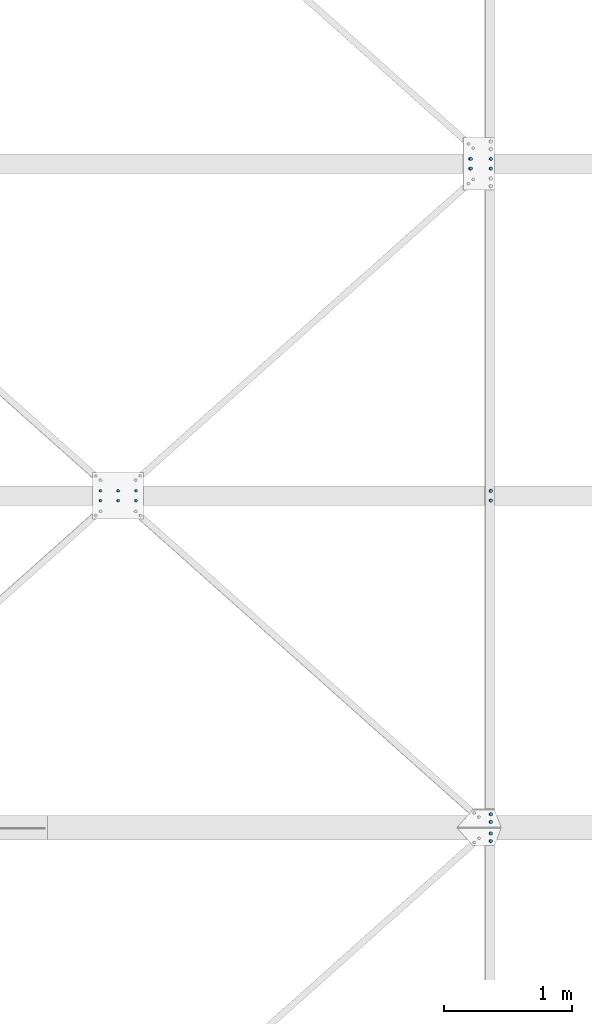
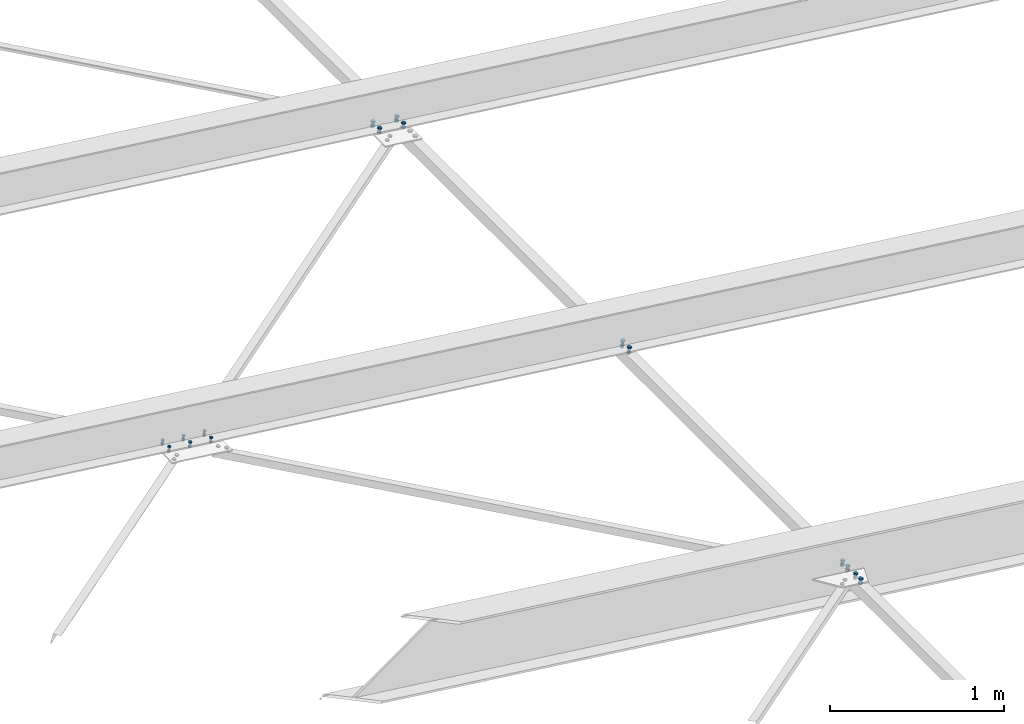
# One storey, part 259 of 3134: 5 mechanical fasteners, 4 elements without a shape of their own.
"""IFC2X3 building model written with IfcOpenShell, lengths in millimetres."""

from ifc_helpers import new_model, si_unit, frame, origin_with_axes, place, context, subcontext, project, spatial, faceted_brep, source, transform, mapped, material, type_object, element, aggregate, save


model = new_model("IFC2X3")

# Units and contexts
model_context = context("Model", 3, precision=1e-05, world=origin_with_axes())
body_context = subcontext(model_context, "Body", "Model", "MODEL_VIEW")
ifc_project = project(units=[si_unit("LENGTHUNIT", "METRE", prefix="MILLI"), si_unit("AREAUNIT", "SQUARE_METRE"), si_unit("VOLUMEUNIT", "CUBIC_METRE"), si_unit("MASSUNIT", "GRAM", prefix="KILO"), si_unit("TIMEUNIT", "SECOND"), si_unit("PLANEANGLEUNIT", "RADIAN"), si_unit("SOLIDANGLEUNIT", "STERADIAN"), si_unit("THERMODYNAMICTEMPERATUREUNIT", "DEGREE_CELSIUS"), si_unit("LUMINOUSINTENSITYUNIT", "LUMEN")], contexts=[model_context])

# Site, building, storey
site_placement = place(None, origin_with_axes())
site = spatial("IfcSite", under=ifc_project, at=site_placement, CompositionType="ELEMENT")
building_placement = place(site_placement, origin_with_axes())
building = spatial("IfcBuilding", under=site, at=building_placement, Name="Undefined", CompositionType="ELEMENT")
storey_placement = place(building_placement, origin_with_axes())
storey = spatial("IfcBuildingStorey", under=building, at=storey_placement, Name="Undefined", CompositionType="ELEMENT", Elevation=0.0)

# Assembly, mechanical fastener
assembly_1_placement = place(storey_placement, origin_with_axes())
assembly_1 = element("IfcElementAssembly", 1, at=assembly_1_placement, inside=storey, Name="300", AssemblyPlace="NOTDEFINED", PredefinedType="RIGID_FRAME")
ifc_material = material(Name="8.8")
mechanical_fastener_type = type_object("IfcMechanicalFastenerType", Name="Bolt assembly")
shared_shape_1 = source(origin_with_axes(), body_context, "Body", "Brep", [
    faceted_brep([(13.856406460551, -19.199990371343, 0.0), (6.92820323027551, -19.199990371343, 12.0), (-6.92820323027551, -19.199990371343, 12.0), (-13.856406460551, -19.199990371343, 1.69692038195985e-15), (-6.92820323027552, -19.199990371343, -12.0), (6.9282032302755, -19.199990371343, -12.0), (6.9282032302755, -9.19999037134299, -12.0), (-6.92820323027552, -9.19999037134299, -12.0), (-13.856406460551, -9.19999037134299, 1.69692038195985e-15), (-6.92820323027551, -9.19999037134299, 12.0), (6.92820323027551, -9.19999037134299, 12.0), (13.856406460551, -9.19999037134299, 0.0), (8.0, -9.19999037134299, 0.0), (6.92820323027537, -9.19999037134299, 4.00000000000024), (3.99999999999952, -9.19999037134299, 6.92820323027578), (-8.29068785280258e-13, -9.19999037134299, 8.0), (-4.00000000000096, -9.19999037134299, 6.92820323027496), (-6.9282032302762, -9.19999037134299, 3.99999999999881), (-8.0, -9.19999037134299, -1.65813757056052e-12), (-6.92820323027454, -9.19999037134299, -4.00000000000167), (-3.99999999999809, -9.19999037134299, -6.92820323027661), (2.47832457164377e-12, -9.19999037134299, -8.0), (4.00000000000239, -9.19999037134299, -6.92820323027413), (6.92820323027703, -9.19999037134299, -3.99999999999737), (6.92820323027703, 25.800009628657, -3.99999999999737), (4.00000000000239, 25.800009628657, -6.92820323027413), (2.47832457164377e-12, 25.800009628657, -8.0), (-3.99999999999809, 25.800009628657, -6.92820323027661), (-6.92820323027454, 25.800009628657, -4.00000000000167), (-8.0, 25.800009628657, -1.65813757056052e-12), (-6.9282032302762, 25.800009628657, 3.99999999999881), (-4.00000000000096, 25.800009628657, 6.92820323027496), (-8.29068785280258e-13, 25.800009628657, 8.0), (3.99999999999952, 25.800009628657, 6.92820323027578), (6.92820323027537, 25.800009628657, 4.00000000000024), (8.0, 25.800009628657, 0.0), (13.856406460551, 8.00000637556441, 0.0), (6.92820323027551, 8.00000637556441, 12.0), (-6.92820323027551, 8.00000637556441, 12.0), (-13.856406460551, 8.00000637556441, 1.69692038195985e-15), (-6.92820323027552, 8.00000637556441, -12.0), (6.9282032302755, 8.00000637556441, -12.0), (6.9282032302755, 21.0000063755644, -12.0), (-6.92820323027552, 21.0000063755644, -12.0), (-13.856406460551, 21.0000063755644, 1.69692038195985e-15), (-6.92820323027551, 21.0000063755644, 12.0), (6.92820323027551, 21.0000063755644, 12.0), (13.856406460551, 21.0000063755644, 0.0)], [[[0, 1, 2, 3, 4, 5]], [[6, 7, 8, 9, 10, 11]], [[0, 11, 10, 1]], [[1, 10, 9, 2]], [[2, 9, 8, 3]], [[3, 8, 7, 4]], [[4, 7, 6, 5]], [[5, 6, 11, 0]], [[12, 13, 14, 15, 16, 17, 18, 19, 20, 21, 22, 23]], [[24, 25, 26, 27, 28, 29, 30, 31, 32, 33, 34, 35]], [[12, 35, 34, 13]], [[13, 34, 33, 14]], [[14, 33, 32, 15]], [[15, 32, 31, 16]], [[16, 31, 30, 17]], [[17, 30, 29, 18]], [[18, 29, 28, 19]], [[19, 28, 27, 20]], [[20, 27, 26, 21]], [[21, 26, 25, 22]], [[22, 25, 24, 23]], [[23, 24, 35, 12]], [[36, 37, 38, 39, 40, 41]], [[42, 43, 44, 45, 46, 47]], [[36, 47, 46, 37]], [[37, 46, 45, 38]], [[38, 45, 44, 39]], [[39, 44, 43, 40]], [[40, 43, 42, 41]], [[41, 42, 47, 36]]]),
    faceted_brep([(9.0, -0.1, 0.0), (7.79422863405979, -0.1, 4.50000000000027), (4.49999999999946, -0.1, 7.79422863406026), (-9.3270238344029e-13, -0.1, 9.0), (-4.50000000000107, -0.1, 7.79422863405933), (-7.79422863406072, -0.1, 4.49999999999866), (-9.0, -0.1, -1.86540476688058e-12), (-7.79422863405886, -0.1, -4.50000000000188), (-4.49999999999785, -0.1, -7.79422863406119), (2.78811514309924e-12, -0.1, -9.0), (4.50000000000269, -0.1, -7.7942286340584), (7.79422863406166, -0.1, -4.49999999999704), (7.79422863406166, 8.00000000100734, -4.49999999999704), (4.50000000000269, 8.00000000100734, -7.7942286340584), (2.78811514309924e-12, 8.00000000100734, -9.0), (-4.49999999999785, 8.00000000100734, -7.79422863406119), (-7.79422863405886, 8.00000000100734, -4.50000000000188), (-9.0, 8.00000000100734, -1.86540476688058e-12), (-7.79422863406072, 8.00000000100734, 4.49999999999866), (-4.50000000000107, 8.00000000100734, 7.79422863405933), (-9.3270238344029e-13, 8.00000000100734, 9.0), (4.49999999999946, 8.00000000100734, 7.79422863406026), (7.79422863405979, 8.00000000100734, 4.50000000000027), (9.0, 8.00000000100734, 0.0), (9.0, -9.09999037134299, 0.0), (7.79422863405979, -9.09999037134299, 4.50000000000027), (4.49999999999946, -9.09999037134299, 7.79422863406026), (-9.3270238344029e-13, -9.09999037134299, 9.0), (-4.50000000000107, -9.09999037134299, 7.79422863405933), (-7.79422863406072, -9.09999037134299, 4.49999999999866), (-9.0, -9.09999037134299, -1.86540476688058e-12), (-7.79422863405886, -9.09999037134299, -4.50000000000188), (-4.49999999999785, -9.09999037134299, -7.79422863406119), (2.78811514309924e-12, -9.09999037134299, -9.0), (4.50000000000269, -9.09999037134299, -7.7942286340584), (7.79422863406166, -9.09999037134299, -4.49999999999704), (7.79422863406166, 0.100000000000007, -4.49999999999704), (4.50000000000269, 0.100000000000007, -7.7942286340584), (2.78811514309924e-12, 0.100000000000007, -9.0), (-4.49999999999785, 0.100000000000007, -7.79422863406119), (-7.79422863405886, 0.100000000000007, -4.50000000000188), (-9.0, 0.100000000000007, -1.86540476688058e-12), (-7.79422863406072, 0.100000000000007, 4.49999999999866), (-4.50000000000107, 0.100000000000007, 7.79422863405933), (-9.3270238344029e-13, 0.100000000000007, 9.0), (4.49999999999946, 0.100000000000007, 7.79422863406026), (7.79422863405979, 0.100000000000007, 4.50000000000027), (9.0, 0.100000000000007, 0.0)], [[[0, 1, 2, 3, 4, 5, 6, 7, 8, 9, 10, 11]], [[12, 13, 14, 15, 16, 17, 18, 19, 20, 21, 22, 23]], [[0, 23, 22, 1]], [[1, 22, 21, 2]], [[2, 21, 20, 3]], [[3, 20, 19, 4]], [[4, 19, 18, 5]], [[5, 18, 17, 6]], [[6, 17, 16, 7]], [[7, 16, 15, 8]], [[8, 15, 14, 9]], [[9, 14, 13, 10]], [[10, 13, 12, 11]], [[11, 12, 23, 0]], [[24, 25, 26, 27, 28, 29, 30, 31, 32, 33, 34, 35]], [[36, 37, 38, 39, 40, 41, 42, 43, 44, 45, 46, 47]], [[24, 47, 46, 25]], [[25, 46, 45, 26]], [[26, 45, 44, 27]], [[27, 44, 43, 28]], [[28, 43, 42, 29]], [[29, 42, 41, 30]], [[30, 41, 40, 31]], [[31, 40, 39, 32]], [[32, 39, 38, 33]], [[33, 38, 37, 34]], [[34, 37, 36, 35]], [[35, 36, 47, 24]]]),
])
mechanical_fastener_1_placement = place(assembly_1_placement, frame((49958.5751064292, 45412.0, 4816.43281405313), z_axis=(-0.992623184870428, 0.0, 0.121240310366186), x_axis=(0.0, 1.0, 0.0)))
mechanical_fastener_1 = element("IfcMechanicalFastener", 2, at=mechanical_fastener_1_placement, type_object=mechanical_fastener_type, material=ifc_material, Name="Bolt assembly", NominalDiameter=16.0, NominalLength=35.0, context=body_context, shape_type="MappedRepresentation", body=[
    mapped(shared_shape_1, transform((0.0, -5.32963895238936e-10, -79.9999999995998))),
    mapped(shared_shape_1, transform((76.0, -5.32963895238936e-10, -79.9999999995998))),
    mapped(shared_shape_1, transform((0.0, 5.3114490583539e-10, 79.9999999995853))),
    mapped(shared_shape_1, transform((76.0, 5.3114490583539e-10, 79.9999999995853))),
])
aggregate(assembly_1, [mechanical_fastener_1])

# Assembly, mechanical fasteners
assembly_2_placement = place(storey_placement, origin_with_axes())
assembly_2 = element("IfcElementAssembly", 3, at=assembly_2_placement, inside=storey, Name="IPE450", AssemblyPlace="NOTDEFINED", PredefinedType="RIGID_FRAME")
shared_shape_2 = source(origin_with_axes(), body_context, "Body", "Brep", [
    faceted_brep([(13.856406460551, -10.0, 0.0), (6.92820323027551, -10.0, 12.0), (-6.92820323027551, -10.0, 12.0), (-13.856406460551, -10.0, 1.69692038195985e-15), (-6.92820323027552, -10.0, -12.0), (6.9282032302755, -10.0, -12.0), (6.9282032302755, 0.0, -12.0), (-6.92820323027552, 0.0, -12.0), (-13.856406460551, 0.0, 1.69692038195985e-15), (-6.92820323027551, 0.0, 12.0), (6.92820323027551, 0.0, 12.0), (13.856406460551, 0.0, 0.0), (8.0, 0.0, 0.0), (6.92820323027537, 0.0, 4.00000000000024), (3.99999999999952, 0.0, 6.92820323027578), (-8.29068785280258e-13, 0.0, 8.0), (-4.00000000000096, 0.0, 6.92820323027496), (-6.9282032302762, 0.0, 3.99999999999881), (-8.0, 0.0, -1.65813757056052e-12), (-6.92820323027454, 0.0, -4.00000000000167), (-3.99999999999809, 0.0, -6.92820323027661), (2.47832457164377e-12, 0.0, -8.0), (4.00000000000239, 0.0, -6.92820323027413), (6.92820323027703, 0.0, -3.99999999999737), (6.92820323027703, 35.0000000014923, -3.99999999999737), (4.00000000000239, 35.0000000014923, -6.92820323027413), (2.47832457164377e-12, 35.0000000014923, -8.0), (-3.99999999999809, 35.0000000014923, -6.92820323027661), (-6.92820323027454, 35.0000000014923, -4.00000000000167), (-8.0, 35.0000000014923, -1.65813757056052e-12), (-6.9282032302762, 35.0000000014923, 3.99999999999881), (-4.00000000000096, 35.0000000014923, 6.92820323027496), (-8.29068785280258e-13, 35.0000000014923, 8.0), (3.99999999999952, 35.0000000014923, 6.92820323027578), (6.92820323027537, 35.0000000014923, 4.00000000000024), (8.0, 35.0000000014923, 0.0), (13.856406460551, 14.9990000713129, 0.0), (6.92820323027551, 14.9990000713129, 12.0), (-6.92820323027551, 14.9990000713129, 12.0), (-13.856406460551, 14.9990000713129, 1.69692038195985e-15), (-6.92820323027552, 14.9990000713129, -12.0), (6.9282032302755, 14.9990000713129, -12.0), (6.9282032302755, 27.9990000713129, -12.0), (-6.92820323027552, 27.9990000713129, -12.0), (-13.856406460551, 27.9990000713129, 1.69692038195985e-15), (-6.92820323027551, 27.9990000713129, 12.0), (6.92820323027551, 27.9990000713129, 12.0), (13.856406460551, 27.9990000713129, 0.0)], [[[0, 1, 2, 3, 4, 5]], [[6, 7, 8, 9, 10, 11]], [[0, 11, 10, 1]], [[1, 10, 9, 2]], [[2, 9, 8, 3]], [[3, 8, 7, 4]], [[4, 7, 6, 5]], [[5, 6, 11, 0]], [[12, 13, 14, 15, 16, 17, 18, 19, 20, 21, 22, 23]], [[24, 25, 26, 27, 28, 29, 30, 31, 32, 33, 34, 35]], [[12, 35, 34, 13]], [[13, 34, 33, 14]], [[14, 33, 32, 15]], [[15, 32, 31, 16]], [[16, 31, 30, 17]], [[17, 30, 29, 18]], [[18, 29, 28, 19]], [[19, 28, 27, 20]], [[20, 27, 26, 21]], [[21, 26, 25, 22]], [[22, 25, 24, 23]], [[23, 24, 35, 12]], [[36, 37, 38, 39, 40, 41]], [[42, 43, 44, 45, 46, 47]], [[36, 47, 46, 37]], [[37, 46, 45, 38]], [[38, 45, 44, 39]], [[39, 44, 43, 40]], [[40, 43, 42, 41]], [[41, 42, 47, 36]]]),
    faceted_brep([(9.0, 7.89900007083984, 0.0), (7.79422863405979, 7.89900007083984, 4.50000000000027), (4.49999999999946, 7.89900007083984, 7.79422863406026), (-9.3270238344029e-13, 7.89900007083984, 9.0), (-4.50000000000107, 7.89900007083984, 7.79422863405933), (-7.79422863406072, 7.89900007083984, 4.49999999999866), (-9.0, 7.89900007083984, -1.86540476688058e-12), (-7.79422863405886, 7.89900007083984, -4.50000000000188), (-4.49999999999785, 7.89900007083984, -7.79422863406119), (2.78811514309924e-12, 7.89900007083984, -9.0), (4.50000000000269, 7.89900007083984, -7.7942286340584), (7.79422863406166, 7.89900007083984, -4.49999999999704), (7.79422863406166, 14.9990000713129, -4.49999999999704), (4.50000000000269, 14.9990000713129, -7.7942286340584), (2.78811514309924e-12, 14.9990000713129, -9.0), (-4.49999999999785, 14.9990000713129, -7.79422863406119), (-7.79422863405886, 14.9990000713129, -4.50000000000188), (-9.0, 14.9990000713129, -1.86540476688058e-12), (-7.79422863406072, 14.9990000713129, 4.49999999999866), (-4.50000000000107, 14.9990000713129, 7.79422863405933), (-9.3270238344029e-13, 14.9990000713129, 9.0), (4.49999999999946, 14.9990000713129, 7.79422863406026), (7.79422863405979, 14.9990000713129, 4.50000000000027), (9.0, 14.9990000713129, 0.0), (9.0, 0.100000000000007, 0.0), (7.79422863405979, 0.100000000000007, 4.50000000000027), (4.49999999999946, 0.100000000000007, 7.79422863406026), (-9.3270238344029e-13, 0.100000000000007, 9.0), (-4.50000000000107, 0.100000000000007, 7.79422863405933), (-7.79422863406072, 0.100000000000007, 4.49999999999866), (-9.0, 0.100000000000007, -1.86540476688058e-12), (-7.79422863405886, 0.100000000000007, -4.50000000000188), (-4.49999999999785, 0.100000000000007, -7.79422863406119), (2.78811514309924e-12, 0.100000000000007, -9.0), (4.50000000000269, 0.100000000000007, -7.7942286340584), (7.79422863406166, 0.100000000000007, -4.49999999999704), (7.79422863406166, 8.1, -4.49999999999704), (4.50000000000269, 8.1, -7.7942286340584), (2.78811514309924e-12, 8.1, -9.0), (-4.49999999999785, 8.1, -7.79422863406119), (-7.79422863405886, 8.1, -4.50000000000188), (-9.0, 8.1, -1.86540476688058e-12), (-7.79422863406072, 8.1, 4.49999999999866), (-4.50000000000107, 8.1, 7.79422863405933), (-9.3270238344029e-13, 8.1, 9.0), (4.49999999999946, 8.1, 7.79422863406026), (7.79422863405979, 8.1, 4.50000000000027), (9.0, 8.1, 0.0)], [[[0, 1, 2, 3, 4, 5, 6, 7, 8, 9, 10, 11]], [[12, 13, 14, 15, 16, 17, 18, 19, 20, 21, 22, 23]], [[0, 23, 22, 1]], [[1, 22, 21, 2]], [[2, 21, 20, 3]], [[3, 20, 19, 4]], [[4, 19, 18, 5]], [[5, 18, 17, 6]], [[6, 17, 16, 7]], [[7, 16, 15, 8]], [[8, 15, 14, 9]], [[9, 14, 13, 10]], [[10, 13, 12, 11]], [[11, 12, 23, 0]], [[24, 25, 26, 27, 28, 29, 30, 31, 32, 33, 34, 35]], [[36, 37, 38, 39, 40, 41, 42, 43, 44, 45, 46, 47]], [[24, 47, 46, 25]], [[25, 46, 45, 26]], [[26, 45, 44, 27]], [[27, 44, 43, 28]], [[28, 43, 42, 29]], [[29, 42, 41, 30]], [[30, 41, 40, 31]], [[31, 40, 39, 32]], [[32, 39, 38, 33]], [[33, 38, 37, 34]], [[34, 37, 36, 35]], [[35, 36, 47, 24]]]),
])
mechanical_fastener_2_placement = place(assembly_2_placement, frame((50037.9849611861, 40295.0, 4806.73358922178), z_axis=(-0.992623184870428, 0.0, 0.121240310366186), x_axis=(0.0, 1.0, 0.0)))
mechanical_fastener_2 = element("IfcMechanicalFastener", 4, at=mechanical_fastener_2_placement, type_object=mechanical_fastener_type, material=ifc_material, Name="Bolt assembly", NominalDiameter=16.0, NominalLength=35.0, context=body_context, shape_type="MappedRepresentation", body=[
    mapped(shared_shape_2, transform((0.0, 0.0, 0.0))),
    mapped(shared_shape_2, transform((59.9999999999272, 0.0, 5.40239852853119e-10))),
])
mechanical_fastener_3_placement = place(assembly_2_placement, frame((50037.9849611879, 40205.0, 4806.73358922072), z_axis=(0.992623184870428, 0.0, -0.121240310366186), x_axis=(0.0, -1.0, 0.0)))
mechanical_fastener_3 = element("IfcMechanicalFastener", 5, at=mechanical_fastener_3_placement, type_object=mechanical_fastener_type, material=ifc_material, Name="Bolt assembly", NominalDiameter=16.0, NominalLength=35.0, context=body_context, shape_type="MappedRepresentation", body=[
    mapped(shared_shape_2, transform((0.0, 0.0, 0.0))),
    mapped(shared_shape_2, transform((59.9999999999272, 0.0, 5.40239852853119e-10))),
])
aggregate(assembly_2, [mechanical_fastener_2, mechanical_fastener_3])

# Assembly, mechanical fastener
assembly_3_placement = place(storey_placement, origin_with_axes())
assembly_3 = element("IfcElementAssembly", 6, at=assembly_3_placement, inside=storey, AssemblyPlace="NOTDEFINED", PredefinedType="RIGID_FRAME")
shared_shape_3 = source(origin_with_axes(), body_context, "Body", "Brep", [
    faceted_brep([(13.856406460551, -19.199990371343, 0.0), (6.92820323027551, -19.199990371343, 12.0), (-6.92820323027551, -19.199990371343, 12.0), (-13.856406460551, -19.199990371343, 1.69692038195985e-15), (-6.92820323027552, -19.199990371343, -12.0), (6.9282032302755, -19.199990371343, -12.0), (6.9282032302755, -9.19999037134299, -12.0), (-6.92820323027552, -9.19999037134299, -12.0), (-13.856406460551, -9.19999037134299, 1.69692038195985e-15), (-6.92820323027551, -9.19999037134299, 12.0), (6.92820323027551, -9.19999037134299, 12.0), (13.856406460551, -9.19999037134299, 0.0), (8.0, -9.19999037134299, 0.0), (6.92820323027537, -9.19999037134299, 4.00000000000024), (3.99999999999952, -9.19999037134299, 6.92820323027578), (-8.29068785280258e-13, -9.19999037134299, 8.0), (-4.00000000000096, -9.19999037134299, 6.92820323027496), (-6.9282032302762, -9.19999037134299, 3.99999999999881), (-8.0, -9.19999037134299, -1.65813757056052e-12), (-6.92820323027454, -9.19999037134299, -4.00000000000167), (-3.99999999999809, -9.19999037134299, -6.92820323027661), (2.47832457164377e-12, -9.19999037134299, -8.0), (4.00000000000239, -9.19999037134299, -6.92820323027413), (6.92820323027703, -9.19999037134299, -3.99999999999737), (6.92820323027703, 35.8000002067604, -3.99999999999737), (4.00000000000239, 35.8000002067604, -6.92820323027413), (2.47832457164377e-12, 35.8000002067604, -8.0), (-3.99999999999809, 35.8000002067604, -6.92820323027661), (-6.92820323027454, 35.8000002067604, -4.00000000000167), (-8.0, 35.8000002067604, -1.65813757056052e-12), (-6.9282032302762, 35.8000002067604, 3.99999999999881), (-4.00000000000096, 35.8000002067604, 6.92820323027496), (-8.29068785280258e-13, 35.8000002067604, 8.0), (3.99999999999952, 35.8000002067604, 6.92820323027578), (6.92820323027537, 35.8000002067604, 4.00000000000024), (8.0, 35.8000002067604, 0.0), (13.856406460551, 14.9990000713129, 0.0), (6.92820323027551, 14.9990000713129, 12.0), (-6.92820323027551, 14.9990000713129, 12.0), (-13.856406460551, 14.9990000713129, 1.69692038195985e-15), (-6.92820323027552, 14.9990000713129, -12.0), (6.9282032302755, 14.9990000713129, -12.0), (6.9282032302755, 27.9990000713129, -12.0), (-6.92820323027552, 27.9990000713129, -12.0), (-13.856406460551, 27.9990000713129, 1.69692038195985e-15), (-6.92820323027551, 27.9990000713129, 12.0), (6.92820323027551, 27.9990000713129, 12.0), (13.856406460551, 27.9990000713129, 0.0)], [[[0, 1, 2, 3, 4, 5]], [[6, 7, 8, 9, 10, 11]], [[0, 11, 10, 1]], [[1, 10, 9, 2]], [[2, 9, 8, 3]], [[3, 8, 7, 4]], [[4, 7, 6, 5]], [[5, 6, 11, 0]], [[12, 13, 14, 15, 16, 17, 18, 19, 20, 21, 22, 23]], [[24, 25, 26, 27, 28, 29, 30, 31, 32, 33, 34, 35]], [[12, 35, 34, 13]], [[13, 34, 33, 14]], [[14, 33, 32, 15]], [[15, 32, 31, 16]], [[16, 31, 30, 17]], [[17, 30, 29, 18]], [[18, 29, 28, 19]], [[19, 28, 27, 20]], [[20, 27, 26, 21]], [[21, 26, 25, 22]], [[22, 25, 24, 23]], [[23, 24, 35, 12]], [[36, 37, 38, 39, 40, 41]], [[42, 43, 44, 45, 46, 47]], [[36, 47, 46, 37]], [[37, 46, 45, 38]], [[38, 45, 44, 39]], [[39, 44, 43, 40]], [[40, 43, 42, 41]], [[41, 42, 47, 36]]]),
    faceted_brep([(9.0, -9.09999037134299, 0.0), (7.79422863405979, -9.09999037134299, 4.50000000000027), (4.49999999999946, -9.09999037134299, 7.79422863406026), (-9.3270238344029e-13, -9.09999037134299, 9.0), (-4.50000000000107, -9.09999037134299, 7.79422863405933), (-7.79422863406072, -9.09999037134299, 4.49999999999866), (-9.0, -9.09999037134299, -1.86540476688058e-12), (-7.79422863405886, -9.09999037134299, -4.50000000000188), (-4.49999999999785, -9.09999037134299, -7.79422863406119), (2.78811514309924e-12, -9.09999037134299, -9.0), (4.50000000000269, -9.09999037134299, -7.7942286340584), (7.79422863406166, -9.09999037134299, -4.49999999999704), (7.79422863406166, 0.100000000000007, -4.49999999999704), (4.50000000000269, 0.100000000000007, -7.7942286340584), (2.78811514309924e-12, 0.100000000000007, -9.0), (-4.49999999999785, 0.100000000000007, -7.79422863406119), (-7.79422863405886, 0.100000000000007, -4.50000000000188), (-9.0, 0.100000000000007, -1.86540476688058e-12), (-7.79422863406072, 0.100000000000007, 4.49999999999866), (-4.50000000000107, 0.100000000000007, 7.79422863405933), (-9.3270238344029e-13, 0.100000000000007, 9.0), (4.49999999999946, 0.100000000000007, 7.79422863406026), (7.79422863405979, 0.100000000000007, 4.50000000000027), (9.0, 0.100000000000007, 0.0), (9.0, 7.89900007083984, 0.0), (7.79422863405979, 7.89900007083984, 4.50000000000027), (4.49999999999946, 7.89900007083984, 7.79422863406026), (-9.3270238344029e-13, 7.89900007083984, 9.0), (-4.50000000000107, 7.89900007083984, 7.79422863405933), (-7.79422863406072, 7.89900007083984, 4.49999999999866), (-9.0, 7.89900007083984, -1.86540476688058e-12), (-7.79422863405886, 7.89900007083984, -4.50000000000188), (-4.49999999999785, 7.89900007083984, -7.79422863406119), (2.78811514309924e-12, 7.89900007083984, -9.0), (4.50000000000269, 7.89900007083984, -7.7942286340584), (7.79422863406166, 7.89900007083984, -4.49999999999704), (7.79422863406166, 14.9990000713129, -4.49999999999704), (4.50000000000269, 14.9990000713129, -7.7942286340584), (2.78811514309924e-12, 14.9990000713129, -9.0), (-4.49999999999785, 14.9990000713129, -7.79422863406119), (-7.79422863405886, 14.9990000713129, -4.50000000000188), (-9.0, 14.9990000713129, -1.86540476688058e-12), (-7.79422863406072, 14.9990000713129, 4.49999999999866), (-4.50000000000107, 14.9990000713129, 7.79422863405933), (-9.3270238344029e-13, 14.9990000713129, 9.0), (4.49999999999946, 14.9990000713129, 7.79422863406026), (7.79422863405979, 14.9990000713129, 4.50000000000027), (9.0, 14.9990000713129, 0.0)], [[[0, 1, 2, 3, 4, 5, 6, 7, 8, 9, 10, 11]], [[12, 13, 14, 15, 16, 17, 18, 19, 20, 21, 22, 23]], [[0, 23, 22, 1]], [[1, 22, 21, 2]], [[2, 21, 20, 3]], [[3, 20, 19, 4]], [[4, 19, 18, 5]], [[5, 18, 17, 6]], [[6, 17, 16, 7]], [[7, 16, 15, 8]], [[8, 15, 14, 9]], [[9, 14, 13, 10]], [[10, 13, 12, 11]], [[11, 12, 23, 0]], [[24, 25, 26, 27, 28, 29, 30, 31, 32, 33, 34, 35]], [[36, 37, 38, 39, 40, 41, 42, 43, 44, 45, 46, 47]], [[24, 47, 46, 25]], [[25, 46, 45, 26]], [[26, 45, 44, 27]], [[27, 44, 43, 28]], [[28, 43, 42, 29]], [[29, 42, 41, 30]], [[30, 41, 40, 31]], [[31, 40, 39, 32]], [[32, 39, 38, 33]], [[33, 38, 37, 34]], [[34, 37, 36, 35]], [[35, 36, 47, 24]]]),
])
mechanical_fastener_4_placement = place(assembly_3_placement, frame((50037.9849612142, 42812.0, 4806.73358922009), z_axis=(-0.992623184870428, 0.0, 0.121240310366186), x_axis=(0.0, 1.0, 0.0)))
mechanical_fastener_4 = element("IfcMechanicalFastener", 7, at=mechanical_fastener_4_placement, type_object=mechanical_fastener_type, material=ifc_material, Name="Bolt assembly", NominalDiameter=16.0, NominalLength=45.0, context=body_context, shape_type="MappedRepresentation", body=[
    mapped(shared_shape_3, transform((0.0, 0.0, 0.0))),
    mapped(shared_shape_3, transform((76.0, 0.0, 0.0))),
])
aggregate(assembly_3, [mechanical_fastener_4])

assembly_4_placement = place(storey_placement, origin_with_axes())
assembly_4 = element("IfcElementAssembly", 8, at=assembly_4_placement, inside=storey, Name="300", AssemblyPlace="NOTDEFINED", PredefinedType="RIGID_FRAME")
shared_shape_4 = source(origin_with_axes(), body_context, "Body", "Brep", [
    faceted_brep([(10.9696551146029, -17.1999998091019, 0.0), (5.48482755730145, -17.1999998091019, 9.5), (-5.48482755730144, -17.1999998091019, 9.5), (-10.9696551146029, -17.1999998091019, 1.34339530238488e-15), (-5.48482755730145, -17.1999998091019, -9.5), (5.48482755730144, -17.1999998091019, -9.50000000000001), (5.48482755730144, -9.19999978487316, -9.50000000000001), (-5.48482755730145, -9.19999978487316, -9.5), (-10.9696551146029, -9.19999978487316, 1.34339530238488e-15), (-5.48482755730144, -9.19999978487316, 9.5), (5.48482755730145, -9.19999978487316, 9.5), (10.9696551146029, -9.19999978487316, 0.0), (6.0, -9.19999978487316, 0.0), (5.19615242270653, -9.19999978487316, 3.00000000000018), (2.99999999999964, -9.19999978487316, 5.19615242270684), (-6.21801588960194e-13, -9.19999978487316, 6.0), (-3.00000000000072, -9.19999978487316, 5.19615242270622), (-5.19615242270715, -9.19999978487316, 2.9999999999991), (-6.0, -9.19999978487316, -1.24360317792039e-12), (-5.19615242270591, -9.19999978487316, -3.00000000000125), (-2.99999999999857, -9.19999978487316, -5.19615242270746), (1.85874342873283e-12, -9.19999978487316, -6.0), (3.00000000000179, -9.19999978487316, -5.1961524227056), (5.19615242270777, -9.19999978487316, -2.99999999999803), (5.19615242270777, 25.8000002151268, -2.99999999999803), (3.00000000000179, 25.8000002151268, -5.1961524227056), (1.85874342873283e-12, 25.8000002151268, -6.0), (-2.99999999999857, 25.8000002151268, -5.19615242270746), (-5.19615242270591, 25.8000002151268, -3.00000000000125), (-6.0, 25.8000002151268, -1.24360317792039e-12), (-5.19615242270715, 25.8000002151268, 2.9999999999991), (-3.00000000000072, 25.8000002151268, 5.19615242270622), (-6.21801588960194e-13, 25.8000002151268, 6.0), (2.99999999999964, 25.8000002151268, 5.19615242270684), (5.19615242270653, 25.8000002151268, 3.00000000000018), (6.0, 25.8000002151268, 0.0), (10.9696551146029, 8.0, 0.0), (5.48482755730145, 8.0, 9.5), (-5.48482755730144, 8.0, 9.5), (-10.9696551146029, 8.0, 1.34339530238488e-15), (-5.48482755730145, 8.0, -9.5), (5.48482755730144, 8.0, -9.50000000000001), (5.48482755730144, 18.0, -9.50000000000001), (-5.48482755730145, 18.0, -9.5), (-10.9696551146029, 18.0, 1.34339530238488e-15), (-5.48482755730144, 18.0, 9.5), (5.48482755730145, 18.0, 9.5), (10.9696551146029, 18.0, 0.0)], [[[0, 1, 2, 3, 4, 5]], [[6, 7, 8, 9, 10, 11]], [[0, 11, 10, 1]], [[1, 10, 9, 2]], [[2, 9, 8, 3]], [[3, 8, 7, 4]], [[4, 7, 6, 5]], [[5, 6, 11, 0]], [[12, 13, 14, 15, 16, 17, 18, 19, 20, 21, 22, 23]], [[24, 25, 26, 27, 28, 29, 30, 31, 32, 33, 34, 35]], [[12, 35, 34, 13]], [[13, 34, 33, 14]], [[14, 33, 32, 15]], [[15, 32, 31, 16]], [[16, 31, 30, 17]], [[17, 30, 29, 18]], [[18, 29, 28, 19]], [[19, 28, 27, 20]], [[20, 27, 26, 21]], [[21, 26, 25, 22]], [[22, 25, 24, 23]], [[23, 24, 35, 12]], [[36, 37, 38, 39, 40, 41]], [[42, 43, 44, 45, 46, 47]], [[36, 47, 46, 37]], [[37, 46, 45, 38]], [[38, 45, 44, 39]], [[39, 44, 43, 40]], [[40, 43, 42, 41]], [[41, 42, 47, 36]]]),
    faceted_brep([(7.0, -0.1, 0.0), (6.06217782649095, -0.1, 3.50000000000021), (3.49999999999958, -0.1, 6.06217782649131), (-7.25435187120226e-13, -0.1, 7.0), (-3.50000000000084, -0.1, 6.06217782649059), (-6.06217782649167, -0.1, 3.49999999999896), (-7.0, -0.1, -1.45087037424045e-12), (-6.06217782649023, -0.1, -3.50000000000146), (-3.49999999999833, -0.1, -6.06217782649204), (2.1685340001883e-12, -0.1, -7.0), (3.50000000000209, -0.1, -6.06217782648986), (6.0621778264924, -0.1, -3.4999999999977), (6.0621778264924, 8.0000000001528, -3.4999999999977), (3.50000000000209, 8.0000000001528, -6.06217782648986), (2.1685340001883e-12, 8.0000000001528, -7.0), (-3.49999999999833, 8.0000000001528, -6.06217782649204), (-6.06217782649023, 8.0000000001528, -3.50000000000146), (-7.0, 8.0000000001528, -1.45087037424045e-12), (-6.06217782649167, 8.0000000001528, 3.49999999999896), (-3.50000000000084, 8.0000000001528, 6.06217782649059), (-7.25435187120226e-13, 8.0000000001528, 7.0), (3.49999999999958, 8.0000000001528, 6.06217782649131), (6.06217782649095, 8.0000000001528, 3.50000000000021), (7.0, 8.0000000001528, 0.0), (7.0, -9.09999980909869, 0.0), (6.06217782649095, -9.09999980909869, 3.50000000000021), (3.49999999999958, -9.09999980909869, 6.06217782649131), (-7.25435187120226e-13, -9.09999980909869, 7.0), (-3.50000000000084, -9.09999980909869, 6.06217782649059), (-6.06217782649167, -9.09999980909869, 3.49999999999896), (-7.0, -9.09999980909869, -1.45087037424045e-12), (-6.06217782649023, -9.09999980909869, -3.50000000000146), (-3.49999999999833, -9.09999980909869, -6.06217782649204), (2.1685340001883e-12, -9.09999980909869, -7.0), (3.50000000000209, -9.09999980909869, -6.06217782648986), (6.0621778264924, -9.09999980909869, -3.4999999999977), (6.0621778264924, 0.0999999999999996, -3.4999999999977), (3.50000000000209, 0.0999999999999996, -6.06217782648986), (2.1685340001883e-12, 0.0999999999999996, -7.0), (-3.49999999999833, 0.0999999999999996, -6.06217782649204), (-6.06217782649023, 0.0999999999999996, -3.50000000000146), (-7.0, 0.0999999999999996, -1.45087037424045e-12), (-6.06217782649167, 0.0999999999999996, 3.49999999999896), (-3.50000000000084, 0.0999999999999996, 6.06217782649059), (-7.25435187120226e-13, 0.0999999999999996, 7.0), (3.49999999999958, 0.0999999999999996, 6.06217782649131), (6.06217782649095, 0.0999999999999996, 3.50000000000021), (7.0, 0.0999999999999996, 0.0)], [[[0, 1, 2, 3, 4, 5, 6, 7, 8, 9, 10, 11]], [[12, 13, 14, 15, 16, 17, 18, 19, 20, 21, 22, 23]], [[0, 23, 22, 1]], [[1, 22, 21, 2]], [[2, 21, 20, 3]], [[3, 20, 19, 4]], [[4, 19, 18, 5]], [[5, 18, 17, 6]], [[6, 17, 16, 7]], [[7, 16, 15, 8]], [[8, 15, 14, 9]], [[9, 14, 13, 10]], [[10, 13, 12, 11]], [[11, 12, 23, 0]], [[24, 25, 26, 27, 28, 29, 30, 31, 32, 33, 34, 35]], [[36, 37, 38, 39, 40, 41, 42, 43, 44, 45, 46, 47]], [[24, 47, 46, 25]], [[25, 46, 45, 26]], [[26, 45, 44, 27]], [[27, 44, 43, 28]], [[28, 43, 42, 29]], [[29, 42, 41, 30]], [[30, 41, 40, 31]], [[31, 40, 39, 32]], [[32, 39, 38, 33]], [[33, 38, 37, 34]], [[34, 37, 36, 35]], [[35, 36, 47, 24]]]),
])
mechanical_fastener_5_placement = place(assembly_4_placement, frame((47258.2022067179, 42850.0, 5146.25993624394), z_axis=(0.0, -1.0, 0.0), x_axis=(-0.992623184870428, 0.0, 0.121240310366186)))
mechanical_fastener_5 = element("IfcMechanicalFastener", 9, at=mechanical_fastener_5_placement, type_object=mechanical_fastener_type, material=ifc_material, Name="Bolt assembly", NominalDiameter=12.0, NominalLength=35.0, context=body_context, shape_type="MappedRepresentation", body=[
    mapped(shared_shape_4, transform((0.0, 0.0, -38.0))),
    mapped(shared_shape_4, transform((140.000000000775, 5.85714587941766e-10, -38.0))),
    mapped(shared_shape_4, transform((279.999999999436, -4.74756234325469e-10, -38.0))),
    mapped(shared_shape_4, transform((0.0, 0.0, 38.0))),
    mapped(shared_shape_4, transform((140.000000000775, 5.85714587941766e-10, 38.0))),
    mapped(shared_shape_4, transform((279.999999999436, -4.74756234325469e-10, 38.0))),
])
aggregate(assembly_4, [mechanical_fastener_5])

save(model, "model.ifc")
